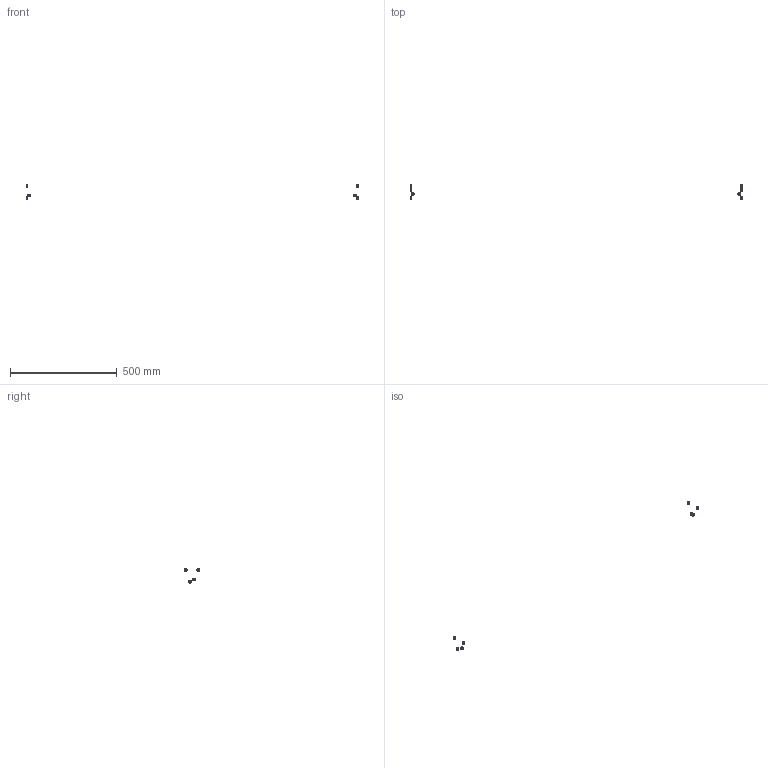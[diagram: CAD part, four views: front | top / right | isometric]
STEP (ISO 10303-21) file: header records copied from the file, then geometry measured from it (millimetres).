
FILE_DESCRIPTION(/* description */ (''),/* implementation_level */ '2;1');
FILE_NAME(/* name */ 'Y-CART~1',/* time_stamp */ '2014-02-14T19:37:10+01:00',/* author */ (''),/* organization */ (''),/* preprocessor_version */ 'ST-DEVELOPER v14',/* originating_system */ '',/* authorisation */ '');
FILE_SCHEMA (('AUTOMOTIVE_DESIGN'));
Length unit declared in the file: millimetre
Products named in the file (2): Document; ball bearing 5x14x5mm
Assembly tree (4 placements, depth 2):
  Document
    ball bearing 5x14x5mm  x4
Bounding box: 1552 x 74 x 68 mm (x, y, z)
Surface area: 4937.8 mm2 (no closed solid volume)
Topology: 0 solids, 208 shells, 208 faces, 736 edges, 728 vertices
Faces by surface type: bspline 160, plane 48
Entity records: 13468 total; most frequent: CARTESIAN_POINT 8177, B_SPLINE_CURVE_WITH_KNOTS 515, ORIENTED_EDGE 455, PCURVE 455, DEFINITIONAL_REPRESENTATION 455, SURFACE_CURVE 455, EDGE_CURVE 455, VERTEX_POINT 455
